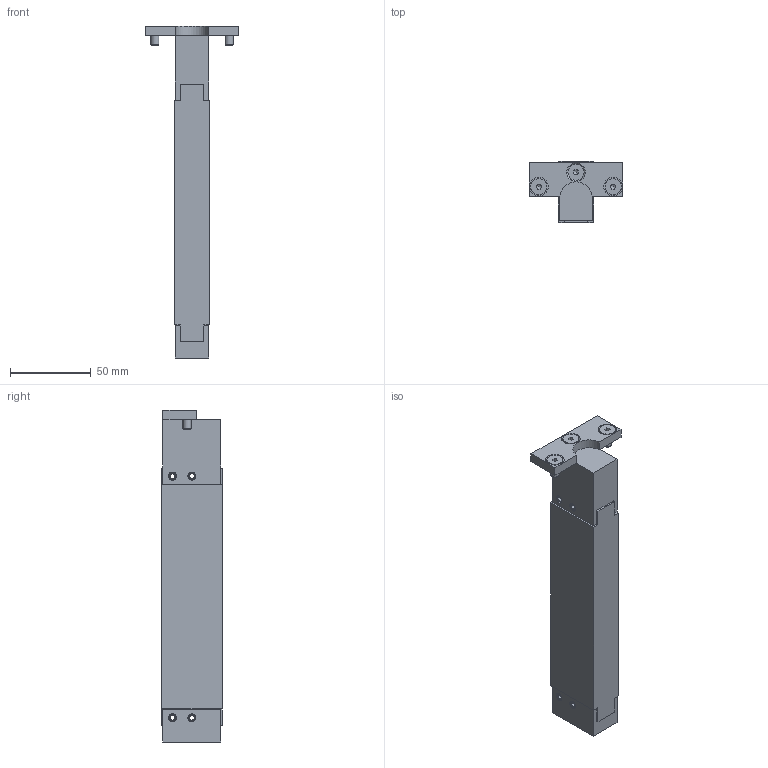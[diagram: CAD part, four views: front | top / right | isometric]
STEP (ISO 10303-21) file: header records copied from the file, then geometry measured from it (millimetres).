
FILE_DESCRIPTION(/* description */ ('DIE LIFTER'),/* implementation_level */ '2;1');
FILE_NAME(/* name */ 'S:\EASCN Vault\Designs\Standard Part\DIE LIFTERS\EHB\EHB- 3D step\EHB22 - 3D step complete serie\EHB 22-04.stp',/* time_stamp */ '2019-11-21T13:47:54+08:00',/* author */ ('yue.yang'),/* organization */ (''),/* preprocessor_version */ 'ST-DEVELOPER v17',/* originating_system */ 'Autodesk Inventor 2019',/* authorisation */ '');
FILE_SCHEMA (('AUTOMOTIVE_DESIGN { 1 0 10303 214 3 1 1 }'));
Length unit declared in the file: millimetre
Products named in the file (2): EHB 22-04; EHB 22-04_Substitute_1
Assembly tree (1 placements, depth 2):
  EHB 22-04
    EHB 22-04_Substitute_1
Bounding box: 58 x 37.8 x 206 mm (x, y, z)
Volume: 134864.2 mm3; surface area: 59763.7 mm2
Topology: 24 solids, 24 shells, 269 faces, 711 edges, 495 vertices
Faces by surface type: plane 124, cylinder 76, cone 45, torus 20, sphere 4
Full cylindrical faces by diameter (mm): 3 x2, 4.134 x1, 5 x15, 5.5 x4, 6 x5, 6.647 x1, 8 x1, 10 x6, 12.2 x4, 16 x4, 16.4 x4, 17.05 x4, 19.05 x4, 19.2 x4
Entity records: 9414 total; most frequent: CARTESIAN_POINT 2077, DIRECTION 1513, ORIENTED_EDGE 1388, EDGE_CURVE 694, AXIS2_PLACEMENT_3D 607, VERTEX_POINT 495, EDGE_LOOP 341, CIRCLE 333
